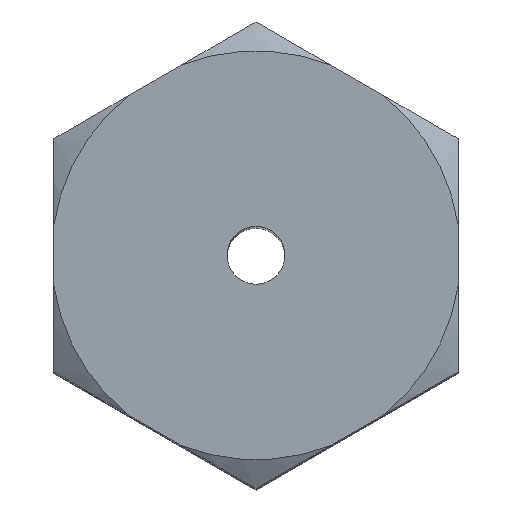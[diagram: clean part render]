
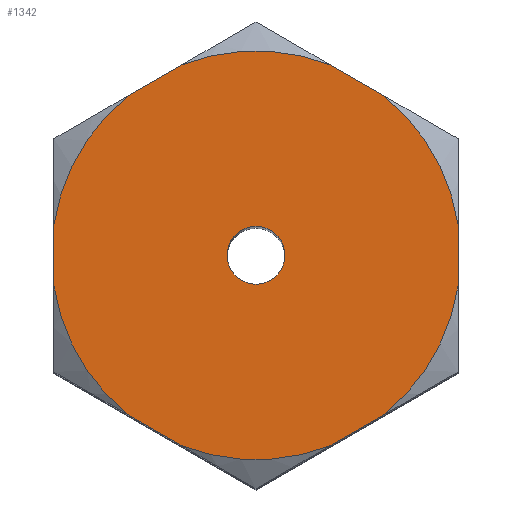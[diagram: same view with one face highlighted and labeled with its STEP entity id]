
A CAD part, top view. The second image highlights one B-rep face of the part: STEP entity #1342.
In plain terms, the highlighted planar face has unit normal (0, 0, 1).
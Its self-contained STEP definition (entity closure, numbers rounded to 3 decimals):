
#1 = CARTESIAN_POINT ( 'NONE',  ( -125.986, 23.172, 25.5 ) ) ;
#28 = DIRECTION ( 'NONE',  ( 1., 0., 0. ) ) ;
#34 = CARTESIAN_POINT ( 'NONE',  ( -128.174, 24.435, 25.5 ) ) ;
#44 = ORIENTED_EDGE ( 'NONE', *, *, #69, .F. ) ;
#49 = EDGE_CURVE ( 'NONE', #301, #836, #384, .T. ) ;
#50 = DIRECTION ( 'NONE',  ( 0., 0., 1. ) ) ;
#65 = DIRECTION ( 'NONE',  ( 0., 0., 1. ) ) ;
#69 = EDGE_CURVE ( 'NONE', #514, #320, #1127, .T. ) ;
#78 = DIRECTION ( 'NONE',  ( 1., 0., 0. ) ) ;
#85 = AXIS2_PLACEMENT_3D ( 'NONE', #1250, #65, #78 ) ;
#129 = CARTESIAN_POINT ( 'NONE',  ( -123.799, 24.435, 25.5 ) ) ;
#133 = CARTESIAN_POINT ( 'NONE',  ( -125.986, 36.872, 25.5 ) ) ;
#135 = CARTESIAN_POINT ( 'NONE',  ( -125.986, 30.022, 25.5 ) ) ;
#157 = ORIENTED_EDGE ( 'NONE', *, *, #232, .T. ) ;
#175 = ORIENTED_EDGE ( 'NONE', *, *, #391, .F. ) ;
#176 = CARTESIAN_POINT ( 'NONE',  ( -128.174, 35.609, 25.5 ) ) ;
#180 = VERTEX_POINT ( 'NONE', #353 ) ;
#187 = FACE_OUTER_BOUND ( 'NONE', #806, .T. ) ;
#195 = CARTESIAN_POINT ( 'NONE',  ( -123.799, 35.609, 25.5 ) ) ;
#202 = VECTOR ( 'NONE', #483, 1000. ) ;
#211 = VERTEX_POINT ( 'NONE', #465 ) ;
#222 = DIRECTION ( 'NONE',  ( 0., 0., 1. ) ) ;
#232 = EDGE_CURVE ( 'NONE', #339, #180, #1019, .T. ) ;
#239 = DIRECTION ( 'NONE',  ( 1., 0., 0. ) ) ;
#257 = DIRECTION ( 'NONE',  ( 1., 0., 0. ) ) ;
#280 = CARTESIAN_POINT ( 'NONE',  ( -125.986, 30.022, 25.5 ) ) ;
#287 = CIRCLE ( 'NONE', #452, 6. ) ;
#296 = EDGE_CURVE ( 'NONE', #1096, #1210, #287, .T. ) ;
#301 = VERTEX_POINT ( 'NONE', #899 ) ;
#320 = VERTEX_POINT ( 'NONE', #129 ) ;
#331 = VERTEX_POINT ( 'NONE', #34 ) ;
#339 = VERTEX_POINT ( 'NONE', #476 ) ;
#352 = CIRCLE ( 'NONE', #1126, 6. ) ;
#353 = CARTESIAN_POINT ( 'NONE',  ( -122.242, 34.71, 25.5 ) ) ;
#369 = CARTESIAN_POINT ( 'NONE',  ( -131.918, 26.597, 25.5 ) ) ;
#372 = ORIENTED_EDGE ( 'NONE', *, *, #1087, .T. ) ;
#375 = ORIENTED_EDGE ( 'NONE', *, *, #789, .F. ) ;
#384 = LINE ( 'NONE', #710, #798 ) ;
#388 = LINE ( 'NONE', #369, #202 ) ;
#391 = EDGE_CURVE ( 'NONE', #331, #1210, #946, .T. ) ;
#398 = DIRECTION ( 'NONE',  ( 1., 0., 0. ) ) ;
#422 = CARTESIAN_POINT ( 'NONE',  ( -125.986, 30.022, 25.5 ) ) ;
#423 = AXIS2_PLACEMENT_3D ( 'NONE', #672, #890, #257 ) ;
#452 = AXIS2_PLACEMENT_3D ( 'NONE', #135, #571, #28 ) ;
#462 = CARTESIAN_POINT ( 'NONE',  ( -120.054, 33.447, 25.5 ) ) ;
#463 = ORIENTED_EDGE ( 'NONE', *, *, #1269, .F. ) ;
#465 = CARTESIAN_POINT ( 'NONE',  ( -120.054, 29.123, 25.5 ) ) ;
#469 = LINE ( 'NONE', #462, #601 ) ;
#476 = CARTESIAN_POINT ( 'NONE',  ( -120.054, 30.921, 25.5 ) ) ;
#483 = DIRECTION ( 'NONE',  ( 0., 1., 0. ) ) ;
#514 = VERTEX_POINT ( 'NONE', #542 ) ;
#520 = DIRECTION ( 'NONE',  ( 0., 0., 1. ) ) ;
#538 = AXIS2_PLACEMENT_3D ( 'NONE', #280, #703, #398 ) ;
#542 = CARTESIAN_POINT ( 'NONE',  ( -122.242, 25.334, 25.5 ) ) ;
#543 = ORIENTED_EDGE ( 'NONE', *, *, #1180, .T. ) ;
#565 = AXIS2_PLACEMENT_3D ( 'NONE', #1121, #50, #239 ) ;
#571 = DIRECTION ( 'NONE',  ( 0., 0., 1. ) ) ;
#600 = EDGE_LOOP ( 'NONE', ( #604 ) ) ;
#601 = VECTOR ( 'NONE', #1214, 1000. ) ;
#603 = ORIENTED_EDGE ( 'NONE', *, *, #1043, .T. ) ;
#604 = ORIENTED_EDGE ( 'NONE', *, *, #921, .F. ) ;
#631 = CIRCLE ( 'NONE', #565, 6. ) ;
#657 = CARTESIAN_POINT ( 'NONE',  ( -125.986, 30.022, 25.5 ) ) ;
#664 = CARTESIAN_POINT ( 'NONE',  ( -129.731, 25.334, 25.5 ) ) ;
#672 = CARTESIAN_POINT ( 'NONE',  ( -125.986, 30.022, 25.5 ) ) ;
#689 = EDGE_CURVE ( 'NONE', #339, #211, #469, .T. ) ;
#692 = ORIENTED_EDGE ( 'NONE', *, *, #49, .F. ) ;
#698 = DIRECTION ( 'NONE',  ( 0.866, 0.5, 0. ) ) ;
#703 = DIRECTION ( 'NONE',  ( 0., 0., 1. ) ) ;
#710 = CARTESIAN_POINT ( 'NONE',  ( -131.918, 33.447, 25.5 ) ) ;
#751 = DIRECTION ( 'NONE',  ( -0.866, 0.5, 0. ) ) ;
#760 = DIRECTION ( 'NONE',  ( 1., 0., 0. ) ) ;
#789 = EDGE_CURVE ( 'NONE', #1034, #180, #997, .T. ) ;
#798 = VECTOR ( 'NONE', #698, 1000. ) ;
#806 = EDGE_LOOP ( 'NONE', ( #692, #372, #463, #1241, #175, #543, #44, #998, #1139, #157, #375, #603 ) ) ;
#810 = CIRCLE ( 'NONE', #1306, 6. ) ;
#836 = VERTEX_POINT ( 'NONE', #176 ) ;
#842 = DIRECTION ( 'NONE',  ( 1., 0., 0. ) ) ;
#867 = CARTESIAN_POINT ( 'NONE',  ( -125.986, 30.022, 25.5 ) ) ;
#890 = DIRECTION ( 'NONE',  ( 0., 0., 1. ) ) ;
#899 = CARTESIAN_POINT ( 'NONE',  ( -129.731, 34.71, 25.5 ) ) ;
#921 = EDGE_CURVE ( 'NONE', #1236, #1236, #1230, .T. ) ;
#933 = FACE_BOUND ( 'NONE', #600, .T. ) ;
#946 = LINE ( 'NONE', #1, #999 ) ;
#993 = DIRECTION ( 'NONE',  ( 0.866, -0.5, 0. ) ) ;
#997 = LINE ( 'NONE', #133, #1300 ) ;
#998 = ORIENTED_EDGE ( 'NONE', *, *, #1035, .T. ) ;
#999 = VECTOR ( 'NONE', #751, 1000. ) ;
#1011 = CARTESIAN_POINT ( 'NONE',  ( -120.054, 26.597, 25.5 ) ) ;
#1019 = CIRCLE ( 'NONE', #423, 6. ) ;
#1034 = VERTEX_POINT ( 'NONE', #195 ) ;
#1035 = EDGE_CURVE ( 'NONE', #514, #211, #352, .T. ) ;
#1037 = CARTESIAN_POINT ( 'NONE',  ( -125.136, 30.022, 25.5 ) ) ;
#1043 = EDGE_CURVE ( 'NONE', #1034, #836, #1349, .T. ) ;
#1046 = CARTESIAN_POINT ( 'NONE',  ( -131.918, 30.921, 25.5 ) ) ;
#1055 = AXIS2_PLACEMENT_3D ( 'NONE', #867, #222, #842 ) ;
#1072 = DIRECTION ( 'NONE',  ( 0., 0., 1. ) ) ;
#1087 = EDGE_CURVE ( 'NONE', #301, #1322, #810, .T. ) ;
#1093 = VECTOR ( 'NONE', #1234, 1000. ) ;
#1096 = VERTEX_POINT ( 'NONE', #1388 ) ;
#1121 = CARTESIAN_POINT ( 'NONE',  ( -125.986, 30.022, 25.5 ) ) ;
#1126 = AXIS2_PLACEMENT_3D ( 'NONE', #422, #1072, #1175 ) ;
#1127 = LINE ( 'NONE', #1011, #1093 ) ;
#1139 = ORIENTED_EDGE ( 'NONE', *, *, #689, .F. ) ;
#1140 = PLANE ( 'NONE',  #85 ) ;
#1175 = DIRECTION ( 'NONE',  ( 1., 0., 0. ) ) ;
#1180 = EDGE_CURVE ( 'NONE', #331, #320, #631, .T. ) ;
#1210 = VERTEX_POINT ( 'NONE', #664 ) ;
#1214 = DIRECTION ( 'NONE',  ( 0., -1., 0. ) ) ;
#1230 = CIRCLE ( 'NONE', #538, 0.85 ) ;
#1234 = DIRECTION ( 'NONE',  ( -0.866, -0.5, 0. ) ) ;
#1236 = VERTEX_POINT ( 'NONE', #1037 ) ;
#1241 = ORIENTED_EDGE ( 'NONE', *, *, #296, .T. ) ;
#1250 = CARTESIAN_POINT ( 'NONE',  ( -125.986, 36.022, 25.5 ) ) ;
#1269 = EDGE_CURVE ( 'NONE', #1096, #1322, #388, .T. ) ;
#1300 = VECTOR ( 'NONE', #993, 1000. ) ;
#1306 = AXIS2_PLACEMENT_3D ( 'NONE', #657, #520, #760 ) ;
#1322 = VERTEX_POINT ( 'NONE', #1046 ) ;
#1342 = ADVANCED_FACE ( 'NONE', ( #933, #187 ), #1140, .T. ) ;
#1349 = CIRCLE ( 'NONE', #1055, 6. ) ;
#1388 = CARTESIAN_POINT ( 'NONE',  ( -131.918, 29.123, 25.5 ) ) ;
